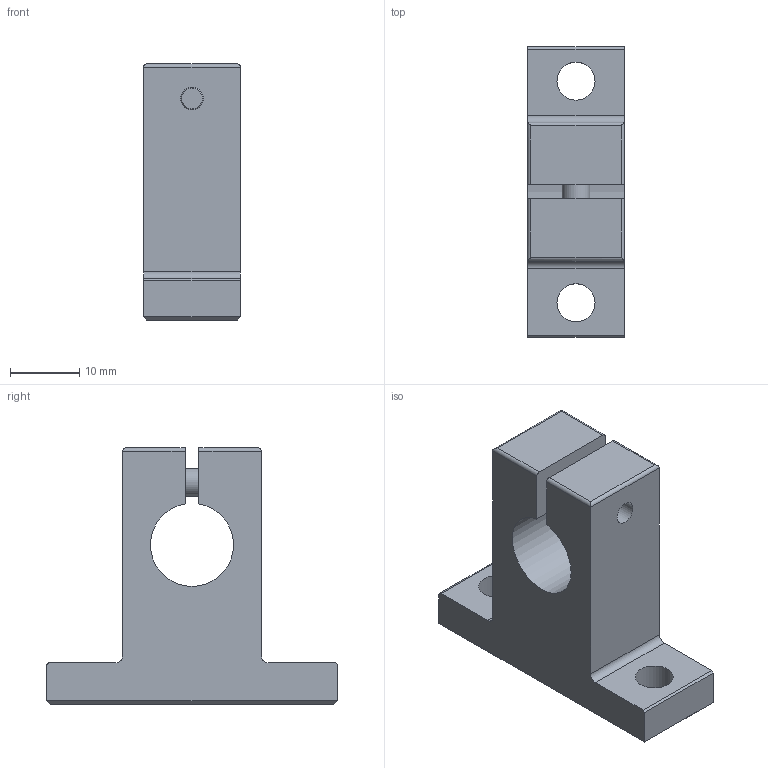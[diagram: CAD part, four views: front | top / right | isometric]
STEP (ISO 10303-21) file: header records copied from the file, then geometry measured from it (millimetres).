
FILE_DESCRIPTION((''),'2;1');
FILE_NAME('D:\製品 (図面)\カタログ用3D\シャフトブロック関連\STEP形式\SBA\SBA12.stp','2010-06-01T16:21:20',('Tsuchiya'),(''),'Autodesk Inventor 10','Autodesk Inventor 10','');
FILE_SCHEMA(('AUTOMOTIVE_DESIGN { 1 0 10303 214 1 1 1 1 }'));
Length unit declared in the file: millimetre
Products named in the file (1): SBA12
Bounding box: 14 x 42 x 37 mm (x, y, z)
Volume: 9992.3 mm3; surface area: 4823.4 mm2
Topology: 1 solids, 1 shells, 48 faces, 119 edges, 77 vertices
Faces by surface type: plane 27, cylinder 14, bspline 4, cone 2, torus 1
Full cylindrical faces by diameter (mm): 4 x1, 5.5 x2, 7 x1
Entity records: 1392 total; most frequent: CARTESIAN_POINT 291, DIRECTION 220, ORIENTED_EDGE 208, EDGE_CURVE 104, AXIS2_PLACEMENT_3D 77, VERTEX_POINT 72, EDGE_LOOP 68, VECTOR 66
